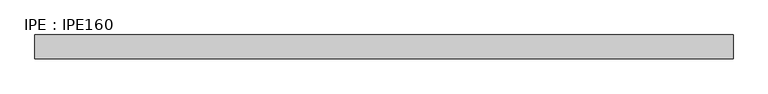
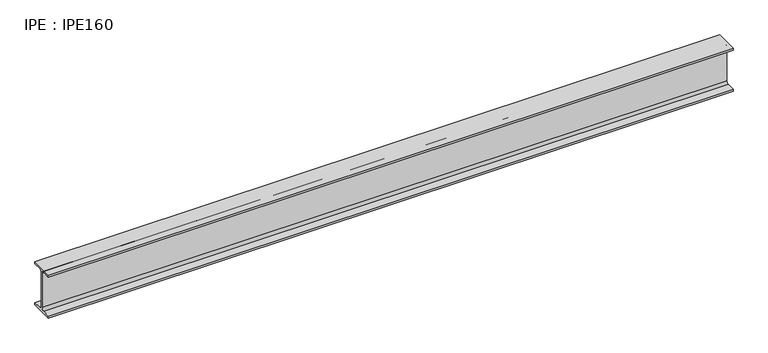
"""IFC4 building model written with IfcOpenShell, lengths in millimetres: beam geometry, IPE : IPE160."""

from ifc_helpers import new_model, si_unit, point, frame, frame_2d, origin, place, context, project, spatial, polyline, circle_curve, trimmed, segment, composite_curve, outline, extrude, source, transform, mapped, element, save


def ipe_ipe160_6a785ccc(model_context):
    return source(origin(), model_context, "Body", "SweptSolid", [
        extrude(outline(composite_curve([segment(polyline([(41.0, -72.6), (41.0, -80.0), (-41.0, -80.0), (-41.0, -72.6), (-11.5, -72.6)]), True, "CONTINUOUS"), segment(trimmed(circle_curve(frame_2d((-11.5, -63.6)), 9.0), [point((-11.5, -72.6))], [point((-2.5, -63.6))], True, "CARTESIAN"), True, "CONTINUOUS"), segment(polyline([(-2.5, -63.6), (-2.5, 63.6)]), True, "CONTINUOUS"), segment(trimmed(circle_curve(frame_2d((-11.5, 63.6)), 9.0), [point((-2.5, 63.6))], [point((-11.5, 72.6))], True, "CARTESIAN"), True, "CONTINUOUS"), segment(polyline([(-11.5, 72.6), (-41.0, 72.6), (-41.0, 80.0), (41.0, 80.0), (41.0, 72.6), (11.5, 72.6)]), True, "CONTINUOUS"), segment(trimmed(circle_curve(frame_2d((11.5, 63.6)), 9.0), [point((11.5, 72.6))], [point((2.5, 63.6))], True, "CARTESIAN"), True, "CONTINUOUS"), segment(polyline([(2.5, 63.6), (2.5, -63.6)]), True, "CONTINUOUS"), segment(trimmed(circle_curve(frame_2d((11.5, -63.6)), 9.0), [point((2.5, -63.6))], [point((11.5, -72.6))], True, "CARTESIAN"), True, "CONTINUOUS"), segment(polyline([(11.5, -72.6), (41.0, -72.6)]), True, "CONTINUOUS")], self_intersect=False)), frame((-1167.25, 0.0, 0.0), z_axis=(1.0, 0.0, 0.0), x_axis=(0.0, 1.0, 0.0)), (0.0, 0.0, 1.0), 2409.0),
    ])


if __name__ == "__main__":
    model = new_model("IFC4")
    model_context = context("Model", 3, world=origin())
    ifc_project = project(units=[si_unit("LENGTHUNIT", "METRE", prefix="MILLI")], contexts=[model_context])
    site = spatial("IfcSite", under=ifc_project)
    building = spatial("IfcBuilding", under=site)
    placement = place(None, origin())
    ipe_ipe160_shape = ipe_ipe160_6a785ccc(model_context)
    element("IfcBeam", 1, ObjectType="IPE : IPE160", at=placement, inside=building, context=model_context, shape_type="MappedRepresentation", body=[
        mapped(ipe_ipe160_shape, transform((0.0, 0.0, 0.0), x_axis=(1.0, 0.0, 0.0), y_axis=(0.0, 1.0, 0.0), z_axis=(0.0, 0.0, 1.0))),
    ])
    save(model, "model.ifc")
